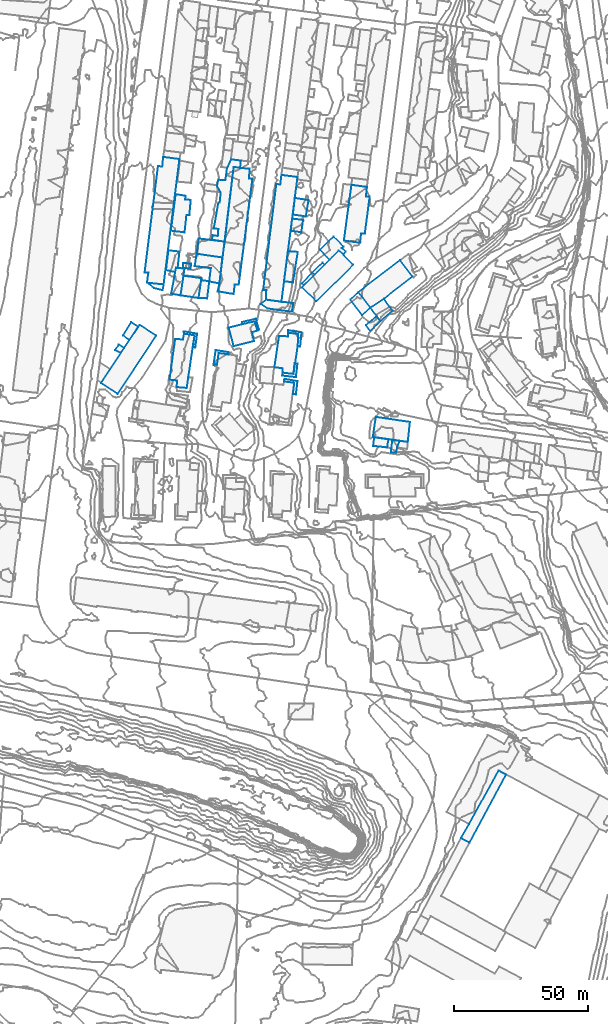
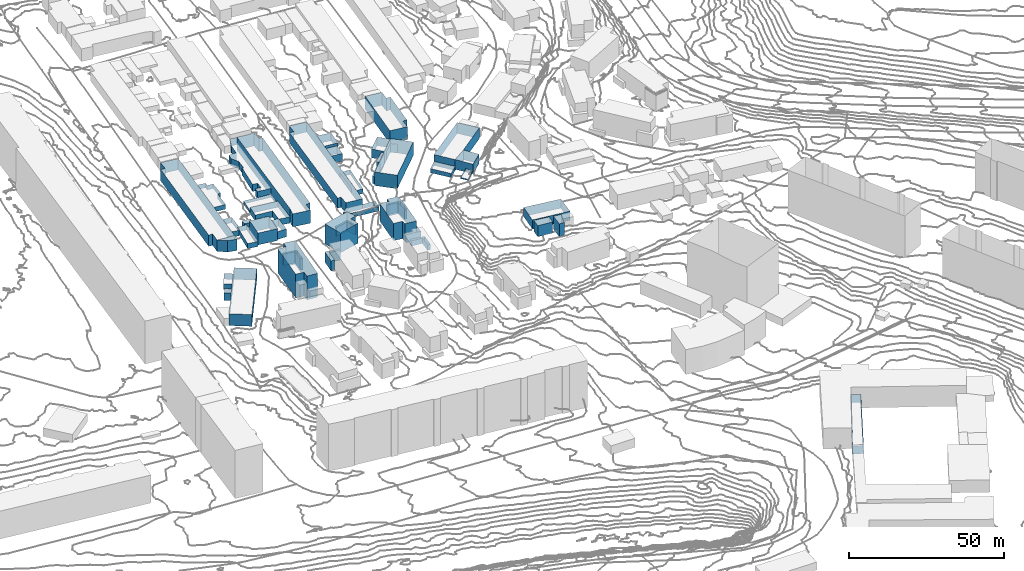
# Not in any storey, part 48 of 419: 42 walls.
"""IFC2X3 model written with IfcOpenShell, lengths in metres."""

from ifc_helpers import new_model, si_unit, frame, origin_with_axes, place, context, subcontext, project, faceted_brep, element, save


model = new_model("IFC2X3")

# Units and contexts
model_context = context("Model", 3, precision=1e-05, world=origin_with_axes())
body_context = subcontext(model_context, "Body", "Model", "MODEL_VIEW")
ifc_project = project(units=[si_unit("AREAUNIT", "SQUARE_METRE"), si_unit("LENGTHUNIT", "METRE")], contexts=[model_context])

# Walls
wall_1_placement = place(None, frame((532.2920204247, 723.0976909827, 38.54), z_axis=(0.0, 0.0, 1.0), x_axis=(1.0, 0.0, 0.0)))
element("IfcWall", 1, at=wall_1_placement, Name="Mur 0", context=body_context, shape_type="Brep", body=[
    faceted_brep([(0.0, 0.0, 3.06), (0.5, 4.5, 3.06), (0.0, 0.0, 0.0), (0.5, 4.5, 0.0), (3.9, -0.6000000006, 3.06), (3.9, -0.6000000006, 0.0), (4.6000000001, 4.0, 3.06), (4.6000000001, 4.0, 0.0)], [[[0, 1, 2]], [[2, 1, 3]], [[4, 0, 5]], [[5, 0, 2]], [[1, 6, 3]], [[3, 6, 7]], [[6, 4, 7]], [[7, 4, 5]]]),
])
wall_2_placement = place(None, frame((533.0920204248, 729.0976909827, 38.442999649), z_axis=(0.0, 0.0, 1.0), x_axis=(1.0, 0.0, 0.0)))
element("IfcWall", 2, at=wall_2_placement, Name="Mur 0", context=body_context, shape_type="Brep", body=[
    faceted_brep([(0.0, 0.0, 3.157000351), (0.7, 6.2000000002, 3.157000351), (0.0, 0.0, 0.0), (0.7, 6.2000000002, 0.0), (4.8, -0.7000000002, 3.157000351), (4.8, -0.7000000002, 0.0), (5.8, 5.3999999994, 3.157000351), (5.8, 5.3999999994, 0.0)], [[[0, 1, 2]], [[2, 1, 3]], [[4, 0, 5]], [[5, 0, 2]], [[1, 6, 3]], [[3, 6, 7]], [[6, 4, 7]], [[7, 4, 5]]]),
])
wall_3_placement = place(None, frame((491.1920204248, 698.9976909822, 35.623999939), z_axis=(0.0, 0.0, 1.0), x_axis=(1.0, 0.0, 0.0)))
element("IfcWall", 3, at=wall_3_placement, Name="Mur 0", context=body_context, shape_type="Brep", body=[
    faceted_brep([(7.8, 6.4000000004, 4.676000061), (6.7000000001, -1.0, 4.676000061), (7.8, 6.4000000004, 0.0), (6.7000000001, -1.0, 0.0), (1.1, 7.3000000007, 4.676000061), (1.1, 7.3000000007, 0.0), (0.0, 0.0, 4.676000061), (0.0, 0.0, 0.0)], [[[0, 1, 2]], [[2, 1, 3]], [[4, 0, 5]], [[5, 0, 2]], [[1, 6, 3]], [[3, 6, 7]], [[6, 4, 7]], [[7, 4, 5]]]),
])
wall_4_placement = place(None, frame((503.4920204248, 673.0976909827, 36.7057994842), z_axis=(0.0, 0.0, 1.0), x_axis=(1.0, 0.0, 0.0)))
element("IfcWall", 4, at=wall_4_placement, Name="Mur 0", context=body_context, shape_type="Brep", body=[
    faceted_brep([(5.7, 4.7000000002, 3.9942005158), (5.7, 3.8999999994, 3.9942005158), (5.7, 4.7000000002, 0.0), (5.7, 3.8999999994, 0.0), (0.7999999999, 5.5, 3.9942005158), (0.7999999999, 5.5, 0.0), (0.0, 0.0, 3.9942005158), (0.0, 0.0, 0.0), (1.2999999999, 0.0999999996, 3.9942005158), (1.2999999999, 0.0999999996, 0.0), (1.9, 4.3999999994, 3.9942005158), (1.9, 4.3999999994, 0.0)], [[[0, 1, 2]], [[2, 1, 3]], [[4, 0, 5]], [[5, 0, 2]], [[6, 4, 7]], [[7, 4, 5]], [[8, 6, 9]], [[9, 6, 7]], [[1, 10, 3]], [[3, 10, 11]], [[10, 8, 11]], [[11, 8, 9]]]),
])
wall_5_placement = place(None, frame((514.0920204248, 689.0976909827, 37.3319997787), z_axis=(0.0, 0.0, 1.0), x_axis=(1.0, 0.0, 0.0)))
element("IfcWall", 5, at=wall_5_placement, Name="Mur 0", context=body_context, shape_type="Brep", body=[
    faceted_brep([(4.7, 0.2000000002, 3.5680002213), (0.2, -0.7999999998, 3.5680002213), (4.7, 0.2000000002, 0.0), (0.2, -0.7999999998, 0.0), (5.8, -3.2000000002, 3.5680002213), (5.8, -3.2000000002, 0.0), (6.4, -2.9000000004, 3.5680002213), (6.4, -2.9000000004, 0.0), (5.2, 1.2000000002, 3.5680002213), (5.2, 1.2000000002, 0.0), (0.0, 0.0, 3.5680002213), (0.0, 0.0, 0.0)], [[[0, 1, 2]], [[2, 1, 3]], [[4, 0, 5]], [[5, 0, 2]], [[6, 4, 7]], [[7, 4, 5]], [[8, 6, 9]], [[9, 6, 7]], [[1, 10, 3]], [[3, 10, 11]], [[10, 8, 11]], [[11, 8, 9]]]),
])
wall_6_placement = place(None, frame((595.6920204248, 496.6976909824, 39.4398013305), z_axis=(0.0, 0.0, 1.0), x_axis=(1.0, 0.0, 0.0)))
element("IfcWall", 6, at=wall_6_placement, Name="Mur 0", context=body_context, shape_type="Brep", body=[
    faceted_brep([(0.0, 0.0, 3.1601986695), (3.0, 5.2000000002, 3.1601986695), (0.0, 0.0, 0.0), (3.0, 5.2000000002, 0.0), (3.2000000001, -1.7000000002, 3.1601986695), (3.2000000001, -1.7000000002, 0.0), (16.8, 23.6000000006, 3.1601986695), (16.8, 23.6000000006, 0.0), (14.0, 25.2000000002, 3.1601986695), (14.0, 25.2000000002, 0.0)], [[[0, 1, 2]], [[2, 1, 3]], [[4, 0, 5]], [[5, 0, 2]], [[6, 4, 7]], [[7, 4, 5]], [[1, 8, 3]], [[3, 8, 9]], [[8, 6, 9]], [[9, 6, 7]]]),
])
wall_7_placement = place(None, frame((536.3920204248, 703.4976909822, 41.2411993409), z_axis=(0.0, 0.0, 1.0), x_axis=(1.0, 0.0, 0.0)))
element("IfcWall", 7, at=wall_7_placement, Name="Mur 0", context=body_context, shape_type="Brep", body=[
    faceted_brep([(4.7, 3.2000000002, 2.9588006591), (0.7, -0.6999999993, 2.9588006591), (4.7, 3.2000000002, 0.0), (0.7, -0.6999999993, 0.0), (3.7999999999, 4.0, 2.9588006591), (3.7999999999, 4.0, 0.0), (0.0, 0.0, 2.9588006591), (0.0, 0.0, 0.0)], [[[0, 1, 2]], [[2, 1, 3]], [[4, 0, 5]], [[5, 0, 2]], [[1, 6, 3]], [[3, 6, 7]], [[6, 4, 7]], [[7, 4, 5]]]),
])
wall_8_placement = place(None, frame((496.4920204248, 709.8976909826, 36.4627999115), z_axis=(0.0, 0.0, 1.0), x_axis=(1.0, 0.0, 0.0)))
element("IfcWall", 8, at=wall_8_placement, Name="Mur 0", context=body_context, shape_type="Brep", body=[
    faceted_brep([(10.2999999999, 3.2000000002, 2.4372000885), (9.2, -6.5, 2.4372000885), (10.2999999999, 3.2000000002, 0.0), (9.2, -6.5, 0.0), (0.7, 4.5999999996, 2.4372000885), (0.7, 4.5999999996, 0.0), (0.0, 0.0, 2.4372000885), (0.0, 0.0, 0.0), (6.0, -0.7999999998, 2.4372000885), (6.0, -0.7999999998, 0.0), (5.4, -5.7000000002, 2.4372000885), (5.4, -5.7000000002, 0.0)], [[[0, 1, 2]], [[2, 1, 3]], [[4, 0, 5]], [[5, 0, 2]], [[6, 4, 7]], [[7, 4, 5]], [[8, 6, 9]], [[9, 6, 7]], [[1, 10, 3]], [[3, 10, 11]], [[10, 8, 11]], [[11, 8, 9]]]),
])
wall_9_placement = place(None, frame((502.8920204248, 719.6976909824, 37.1452000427), z_axis=(0.0, 0.0, 1.0), x_axis=(1.0, 0.0, 0.0)))
element("IfcWall", 9, at=wall_9_placement, Name="Mur 0", context=body_context, shape_type="Brep", body=[
    faceted_brep([(7.1, 30.0, 2.8547999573), (10.7999999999, 29.5, 2.8547999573), (7.1, 30.0, 0.0), (10.7999999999, 29.5, 0.0), (5.6, 26.5, 2.8547999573), (5.6, 26.5, 0.0), (5.0, 22.2000000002, 2.8547999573), (5.0, 22.2000000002, 0.0), (2.3999999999, 22.4000000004, 2.8547999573), (2.3999999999, 22.4000000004, 0.0), (1.8999999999, 20.2999999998, 2.8547999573), (1.8999999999, 20.2999999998, 0.0), (3.2999999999, 17.7000000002, 2.8547999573), (3.2999999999, 17.7000000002, 0.0), (2.8999999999, 13.9000000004, 2.8547999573), (2.8999999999, 13.9000000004, 0.0), (2.3999999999, 13.9000000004, 2.8547999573), (2.3999999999, 13.9000000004, 0.0), (0.7, 4.2999999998, 2.8547999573), (0.7, 4.2999999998, 0.0), (2.3999999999, 4.0, 2.8547999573), (2.3999999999, 4.0, 0.0), (2.2, 1.4000000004, 2.8547999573), (2.2, 1.4000000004, 0.0), (0.2999999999, 1.7000000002, 2.8547999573), (0.2999999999, 1.7000000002, 0.0), (0.0, 0.0, 2.8547999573), (0.0, 0.0, 0.0), (4.7999999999, -0.7000000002, 2.8547999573), (4.7999999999, -0.7000000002, 0.0), (8.1, 27.2000000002, 2.8547999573), (8.1, 27.2000000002, 0.0), (10.5, 26.7999999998, 2.8547999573), (10.5, 26.7999999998, 0.0)], [[[0, 1, 2]], [[2, 1, 3]], [[4, 0, 5]], [[5, 0, 2]], [[6, 4, 7]], [[7, 4, 5]], [[8, 6, 9]], [[9, 6, 7]], [[10, 8, 11]], [[11, 8, 9]], [[12, 10, 13]], [[13, 10, 11]], [[14, 12, 15]], [[15, 12, 13]], [[16, 14, 17]], [[17, 14, 15]], [[18, 16, 19]], [[19, 16, 17]], [[20, 18, 21]], [[21, 18, 19]], [[22, 20, 23]], [[23, 20, 21]], [[24, 22, 25]], [[25, 22, 23]], [[26, 24, 27]], [[27, 24, 25]], [[28, 26, 29]], [[29, 26, 27]], [[30, 28, 31]], [[31, 28, 29]], [[1, 32, 3]], [[3, 32, 33]], [[32, 30, 33]], [[33, 30, 31]]]),
])
wall_10_placement = place(None, frame((554.4920204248, 697.3976909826, 42.8836994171), z_axis=(0.0, 0.0, 1.0), x_axis=(1.0, 0.0, 0.0)))
element("IfcWall", 10, at=wall_10_placement, Name="Mur 0", context=body_context, shape_type="Brep", body=[
    faceted_brep([(3.0, 2.9000000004, 1.6163005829), (7.5, -2.9000000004, 1.6163005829), (3.0, 2.9000000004, 0.0), (7.5, -2.9000000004, 0.0), (0.0, 0.0, 1.6163005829), (0.0, 0.0, 0.0), (4.4, -5.7000000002, 1.6163005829), (4.4, -5.7000000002, 0.0)], [[[0, 1, 2]], [[2, 1, 3]], [[4, 0, 5]], [[5, 0, 2]], [[1, 6, 3]], [[3, 6, 7]], [[6, 4, 7]], [[7, 4, 5]]]),
])
wall_11_placement = place(None, frame((469.6920204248, 684.0976909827, 34.6607994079), z_axis=(0.0, 0.0, 1.0), x_axis=(1.0, 0.0, 0.0)))
element("IfcWall", 11, at=wall_11_placement, Name="Mur 0", context=body_context, shape_type="Brep", body=[
    faceted_brep([(3.1, 4.8999999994, 2.2392005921), (5.7000000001, 3.2000000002, 2.2392005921), (3.1, 4.8999999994, 0.0), (5.7000000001, 3.2000000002, 0.0), (0.0, 0.0, 2.2392005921), (0.0, 0.0, 0.0), (2.4, -1.7000000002, 2.2392005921), (2.4, -1.7000000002, 0.0)], [[[0, 1, 2]], [[2, 1, 3]], [[4, 0, 5]], [[5, 0, 2]], [[1, 6, 3]], [[3, 6, 7]], [[6, 4, 7]], [[7, 4, 5]]]),
])
wall_12_placement = place(None, frame((531.1920204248, 685.0976909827, 41.7803999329), z_axis=(0.0, 0.0, 1.0), x_axis=(1.0, 0.0, 0.0)))
element("IfcWall", 12, at=wall_12_placement, Name="Mur 0", context=body_context, shape_type="Brep", body=[
    faceted_brep([(3.8, -0.5, 3.9196000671), (0.0, 0.0, 3.9196000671), (3.8, -0.5, 0.0), (0.0, 0.0, 0.0), (3.7000000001, -4.9000000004, 3.9196000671), (3.7000000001, -4.9000000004, 0.0), (4.6, -5.1000000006, 3.9196000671), (4.6, -5.1000000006, 0.0), (5.1, 0.0999999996, 3.9196000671), (5.1, 0.0999999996, 0.0), (0.1, 0.8999999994, 3.9196000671), (0.1, 0.8999999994, 0.0)], [[[0, 1, 2]], [[2, 1, 3]], [[4, 0, 5]], [[5, 0, 2]], [[6, 4, 7]], [[7, 4, 5]], [[8, 6, 9]], [[9, 6, 7]], [[1, 10, 3]], [[3, 10, 11]], [[10, 8, 11]], [[11, 8, 9]]]),
])
wall_13_placement = place(None, frame((487.5920204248, 723.0976909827, 34.9640010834), z_axis=(0.0, 0.0, 1.0), x_axis=(1.0, 0.0, 0.0)))
element("IfcWall", 13, at=wall_13_placement, Name="Mur 0", context=body_context, shape_type="Brep", body=[
    faceted_brep([(0.0, 0.0, 1.8359989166), (1.8, 13.5999999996, 1.8359989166), (0.0, 0.0, 0.0), (1.8, 13.5999999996, 0.0), (5.1, -0.6000000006, 1.8359989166), (5.1, -0.6000000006, 0.0), (5.8, 5.7999999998, 1.8359989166), (5.8, 5.7999999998, 0.0), (6.9, 5.7999999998, 1.8359989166), (6.9, 5.7999999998, 0.0), (7.4, 11.5, 1.8359989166), (7.4, 11.5, 0.0), (5.3, 11.5999999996, 1.8359989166), (5.3, 11.5999999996, 0.0), (5.5, 13.0, 1.8359989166), (5.5, 13.0, 0.0)], [[[0, 1, 2]], [[2, 1, 3]], [[4, 0, 5]], [[5, 0, 2]], [[6, 4, 7]], [[7, 4, 5]], [[8, 6, 9]], [[9, 6, 7]], [[10, 8, 11]], [[11, 8, 9]], [[12, 10, 13]], [[13, 10, 11]], [[1, 14, 3]], [[3, 14, 15]], [[14, 12, 15]], [[15, 12, 13]]]),
])
wall_14_placement = place(None, frame((561.9920204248, 694.4976909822, 43.3685993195), z_axis=(0.0, 0.0, 1.0), x_axis=(1.0, 0.0, 0.0)))
element("IfcWall", 14, at=wall_14_placement, Name="Mur 0", context=body_context, shape_type="Brep", body=[
    faceted_brep([(3.7, -5.0999999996, 3.8314006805), (0.0, 0.0, 3.8314006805), (3.7, -5.0999999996, 0.0), (0.0, 0.0, 0.0), (8.2, -1.1999999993, 3.8314006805), (8.2, -1.1999999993, 0.0), (5.0, 3.3000000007, 3.8314006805), (5.0, 3.3000000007, 0.0)], [[[0, 1, 2]], [[2, 1, 3]], [[4, 0, 5]], [[5, 0, 2]], [[1, 6, 3]], [[3, 6, 7]], [[6, 4, 7]], [[7, 4, 5]]]),
])
wall_15_placement = place(None, frame((543.2920204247, 716.0976909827, 41.3683003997), z_axis=(0.0, 0.0, 1.0), x_axis=(1.0, 0.0, 0.0)))
element("IfcWall", 15, at=wall_15_placement, Name="Mur 0", context=body_context, shape_type="Brep", body=[
    faceted_brep([(9.4, -0.7999999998, 3.4316996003), (8.6000000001, -1.9000000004, 3.4316996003), (9.4, -0.7999999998, 0.0), (8.6000000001, -1.9000000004, 0.0), (8.0, 0.5999999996, 3.4316996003), (8.0, 0.5999999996, 0.0), (8.7000000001, 1.0999999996, 3.4316996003), (8.7000000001, 1.0999999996, 0.0), (5.0, 4.8999999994, 3.4316996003), (5.0, 4.8999999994, 0.0), (0.0, 0.0, 3.4316996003), (0.0, 0.0, 0.0), (3.4, -3.7999999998, 3.4316996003), (3.4, -3.7999999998, 0.0), (6.8, -0.4000000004, 3.4316996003), (6.8, -0.4000000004, 0.0)], [[[0, 1, 2]], [[2, 1, 3]], [[4, 0, 5]], [[5, 0, 2]], [[6, 4, 7]], [[7, 4, 5]], [[8, 6, 9]], [[9, 6, 7]], [[10, 8, 11]], [[11, 8, 9]], [[12, 10, 13]], [[13, 10, 11]], [[1, 14, 3]], [[3, 14, 15]], [[14, 12, 15]], [[15, 12, 13]]]),
])
wall_16_placement = place(None, frame((562.9920204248, 642.8976909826, 47.7364006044), z_axis=(0.0, 0.0, 1.0), x_axis=(1.0, 0.0, 0.0)))
element("IfcWall", 16, at=wall_16_placement, Name="Mur 0", context=body_context, shape_type="Brep", body=[
    faceted_brep([(0.0, 0.0, 4.3635993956), (0.4, 3.2000000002, 4.3635993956), (0.0, 0.0, 0.0), (0.4, 3.2000000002, 0.0), (5.2, -0.5999999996, 4.3635993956), (5.2, -0.5999999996, 0.0), (5.7, 2.4000000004, 4.3635993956), (5.7, 2.4000000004, 0.0)], [[[0, 1, 2]], [[2, 1, 3]], [[4, 0, 5]], [[5, 0, 2]], [[1, 6, 3]], [[3, 6, 7]], [[6, 4, 7]], [[7, 4, 5]]]),
])
wall_17_placement = place(None, frame((557.4920204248, 700.2976909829, 42.8836994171), z_axis=(0.0, 0.0, 1.0), x_axis=(1.0, 0.0, 0.0)))
element("IfcWall", 17, at=wall_17_placement, Name="Mur 0", context=body_context, shape_type="Brep", body=[
    faceted_brep([(15.5, 11.8999999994, 4.3163005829), (20.2, 5.7999999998, 4.3163005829), (15.5, 11.8999999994, 0.0), (20.2, 5.7999999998, 0.0), (0.0, 0.0, 4.3163005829), (0.0, 0.0, 0.0), (4.5, -5.8000000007, 4.3163005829), (4.5, -5.8000000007, 0.0), (9.5, -2.5, 4.3163005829), (9.5, -2.5, 0.0)], [[[0, 1, 2]], [[2, 1, 3]], [[4, 0, 5]], [[5, 0, 2]], [[6, 4, 7]], [[7, 4, 5]], [[1, 8, 3]], [[3, 8, 9]], [[8, 6, 9]], [[9, 6, 7]]]),
])
wall_18_placement = place(None, frame((540.1920204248, 707.4976909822, 42.1155997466), z_axis=(0.0, 0.0, 1.0), x_axis=(1.0, 0.0, 0.0)))
element("IfcWall", 18, at=wall_18_placement, Name="Mur 0", context=body_context, shape_type="Brep", body=[
    faceted_brep([(4.7000000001, 3.0, 3.9844002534), (0.9, -0.7999999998, 3.9844002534), (4.7000000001, 3.0, 0.0), (0.9, -0.7999999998, 0.0), (3.9, 3.8000000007, 3.9844002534), (3.9, 3.8000000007, 0.0), (0.0, 0.0, 3.9844002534), (0.0, 0.0, 0.0)], [[[0, 1, 2]], [[2, 1, 3]], [[4, 0, 5]], [[5, 0, 2]], [[1, 6, 3]], [[3, 6, 7]], [[6, 4, 7]], [[7, 4, 5]]]),
])
wall_19_placement = place(None, frame((529.7920204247, 704.2976909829, 38.294998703), z_axis=(0.0, 0.0, 1.0), x_axis=(1.0, 0.0, 0.0)))
element("IfcWall", 19, at=wall_19_placement, Name="Mur 0", context=body_context, shape_type="Brep", body=[
    faceted_brep([(3.3, -0.5, 1.805001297), (0.0, 0.0, 1.805001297), (3.3, -0.5, 0.0), (0.0, 0.0, 0.0), (5.1000000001, 10.8999999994, 1.805001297), (5.1000000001, 10.8999999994, 0.0), (1.4, 11.1999999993, 1.805001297), (1.4, 11.1999999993, 0.0)], [[[0, 1, 2]], [[2, 1, 3]], [[4, 0, 5]], [[5, 0, 2]], [[1, 6, 3]], [[3, 6, 7]], [[6, 4, 7]], [[7, 4, 5]]]),
])
wall_20_placement = place(None, frame((520.9920204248, 695.7976909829, 38.1628002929), z_axis=(0.0, 0.0, 1.0), x_axis=(1.0, 0.0, 0.0)))
element("IfcWall", 20, at=wall_20_placement, Name="Mur 0", context=body_context, shape_type="Brep", body=[
    faceted_brep([(0.0, 0.0, 1.7371997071), (2.0, 1.5999999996, 1.7371997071), (0.0, 0.0, 0.0), (2.0, 1.5999999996, 0.0), (2.6, -1.7000000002, 1.7371997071), (2.6, -1.7000000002, 0.0), (11.7, -2.9000000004, 1.7371997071), (11.7, -2.9000000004, 0.0), (12.2, 0.2999999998, 1.7371997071), (12.2, 0.2999999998, 0.0)], [[[0, 1, 2]], [[2, 1, 3]], [[4, 0, 5]], [[5, 0, 2]], [[6, 4, 7]], [[7, 4, 5]], [[1, 8, 3]], [[3, 8, 9]], [[8, 6, 9]], [[9, 6, 7]]]),
])
wall_21_placement = place(None, frame((492.0920204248, 709.2976909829, 35.5023989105), z_axis=(0.0, 0.0, 1.0), x_axis=(1.0, 0.0, 0.0)))
element("IfcWall", 21, at=wall_21_placement, Name="Mur 0", context=body_context, shape_type="Brep", body=[
    faceted_brep([(3.1, 1.5, 1.8976010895), (2.8, -0.4000000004, 1.8976010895), (3.1, 1.5, 0.0), (2.8, -0.4000000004, 0.0), (0.1, 1.7999999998, 1.8976010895), (0.1, 1.7999999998, 0.0), (0.0, 0.0, 1.8976010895), (0.0, 0.0, 0.0)], [[[0, 1, 2]], [[2, 1, 3]], [[4, 0, 5]], [[5, 0, 2]], [[1, 6, 3]], [[3, 6, 7]], [[6, 4, 7]], [[7, 4, 5]]]),
])
wall_22_placement = place(None, frame((487.6920204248, 699.5976909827, 35.014600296), z_axis=(0.0, 0.0, 1.0), x_axis=(1.0, 0.0, 0.0)))
element("IfcWall", 22, at=wall_22_placement, Name="Mur 0", context=body_context, shape_type="Brep", body=[
    faceted_brep([(0.0, 0.0, 1.985399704), (1.5, 8.0999999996, 1.985399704), (0.0, 0.0, 0.0), (1.5, 8.0999999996, 0.0), (3.5, -0.6000000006, 1.985399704), (3.5, -0.6000000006, 0.0), (5.0, 9.2999999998, 1.985399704), (5.0, 9.2999999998, 0.0), (1.8, 9.7999999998, 1.985399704), (1.8, 9.7999999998, 0.0)], [[[0, 1, 2]], [[2, 1, 3]], [[4, 0, 5]], [[5, 0, 2]], [[6, 4, 7]], [[7, 4, 5]], [[1, 8, 3]], [[3, 8, 9]], [[8, 6, 9]], [[9, 6, 7]]]),
])
wall_23_placement = place(None, frame((560.2920204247, 687.9976909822, 44.2156001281), z_axis=(0.0, 0.0, 1.0), x_axis=(1.0, 0.0, 0.0)))
element("IfcWall", 23, at=wall_23_placement, Name="Mur 0", context=body_context, shape_type="Brep", body=[
    faceted_brep([(0.0, 0.0, 0.4843998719), (3.9, 3.3000000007, 0.4843998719), (0.0, 0.0, 0.0), (3.9, 3.3000000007, 0.0), (1.6000000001, -2.1999999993, 0.4843998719), (1.6000000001, -2.1999999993, 0.0), (5.4, 1.4000000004, 0.4843998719), (5.4, 1.4000000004, 0.0)], [[[0, 1, 2]], [[2, 1, 3]], [[4, 0, 5]], [[5, 0, 2]], [[1, 6, 3]], [[3, 6, 7]], [[6, 4, 7]], [[7, 4, 5]]]),
])
wall_24_placement = place(None, frame((536.3920204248, 701.9976909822, 41.3607991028), z_axis=(0.0, 0.0, 1.0), x_axis=(1.0, 0.0, 0.0)))
element("IfcWall", 24, at=wall_24_placement, Name="Mur 0", context=body_context, shape_type="Brep", body=[
    faceted_brep([(13.7, 13.7000000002, 5.3392008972), (15.5, 12.2000000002, 5.3392008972), (13.7, 13.7000000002, 0.0), (15.5, 12.2000000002, 0.0), (0.0, 0.0, 5.3392008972), (0.0, 0.0, 0.0), (5.3999999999, -5.1999999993, 5.3392008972), (5.3999999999, -5.1999999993, 0.0), (19.2, 8.4000000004, 5.3392008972), (19.2, 8.4000000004, 0.0)], [[[0, 1, 2]], [[2, 1, 3]], [[4, 0, 5]], [[5, 0, 2]], [[6, 4, 7]], [[7, 4, 5]], [[1, 8, 3]], [[3, 8, 9]], [[8, 6, 9]], [[9, 6, 7]]]),
])
wall_25_placement = place(None, frame((497.1920204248, 714.4976909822, 36.4867996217), z_axis=(0.0, 0.0, 1.0), x_axis=(1.0, 0.0, 0.0)))
element("IfcWall", 25, at=wall_25_placement, Name="Mur 0", context=body_context, shape_type="Brep", body=[
    faceted_brep([(0.8, 5.7000000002, 1.2132003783), (10.5, 4.5, 1.2132003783), (0.8, 5.7000000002, 0.0), (10.5, 4.5, 0.0), (0.0, 0.0, 1.2132003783), (0.0, 0.0, 0.0), (9.6, -1.3999999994, 1.2132003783), (9.6, -1.3999999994, 0.0)], [[[0, 1, 2]], [[2, 1, 3]], [[4, 0, 5]], [[5, 0, 2]], [[1, 6, 3]], [[3, 6, 7]], [[6, 4, 7]], [[7, 4, 5]]]),
])
wall_26_placement = place(None, frame((529.0920204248, 669.0976909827, 41.3235997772), z_axis=(0.0, 0.0, 1.0), x_axis=(1.0, 0.0, 0.0)))
element("IfcWall", 26, at=wall_26_placement, Name="Mur 0", context=body_context, shape_type="Brep", body=[
    faceted_brep([(0.0, 0.0, 3.1764002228), (0.2, 1.0999999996, 3.1764002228), (0.0, 0.0, 0.0), (0.2, 1.0999999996, 0.0), (5.1, -0.6000000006, 3.1764002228), (5.1, -0.6000000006, 0.0), (5.7, 4.5, 3.1764002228), (5.7, 4.5, 0.0), (4.6, 4.5999999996, 3.1764002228), (4.6, 4.5999999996, 0.0), (4.2, 0.5999999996, 3.1764002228), (4.2, 0.5999999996, 0.0)], [[[0, 1, 2]], [[2, 1, 3]], [[4, 0, 5]], [[5, 0, 2]], [[6, 4, 7]], [[7, 4, 5]], [[8, 6, 9]], [[9, 6, 7]], [[1, 10, 3]], [[3, 10, 11]], [[10, 8, 11]], [[11, 8, 9]]]),
])
wall_27_placement = place(None, frame((529.7920204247, 666.8976909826, 41.1484007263), z_axis=(0.0, 0.0, 1.0), x_axis=(1.0, 0.0, 0.0)))
element("IfcWall", 27, at=wall_27_placement, Name="Mur 0", context=body_context, shape_type="Brep", body=[
    faceted_brep([(3.8, -0.5, 2.0515992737), (0.0, 0.0, 2.0515992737), (3.8, -0.5, 0.0), (0.0, 0.0, 0.0), (3.3, -4.7000000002, 2.0515992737), (3.3, -4.7000000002, 0.0), (4.4, -4.7999999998, 2.0515992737), (4.4, -4.7999999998, 0.0), (5.0, 0.0999999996, 2.0515992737), (5.0, 0.0999999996, 0.0), (0.1000000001, 1.0, 2.0515992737), (0.1000000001, 1.0, 0.0)], [[[0, 1, 2]], [[2, 1, 3]], [[4, 0, 5]], [[5, 0, 2]], [[6, 4, 7]], [[7, 4, 5]], [[8, 6, 9]], [[9, 6, 7]], [[1, 10, 3]], [[3, 10, 11]], [[10, 8, 11]], [[11, 8, 9]]]),
])
wall_28_placement = place(None, frame((492.3920204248, 685.5976909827, 35.6831993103), z_axis=(0.0, 0.0, 1.0), x_axis=(1.0, 0.0, 0.0)))
element("IfcWall", 28, at=wall_28_placement, Name="Mur 0", context=body_context, shape_type="Brep", body=[
    faceted_brep([(4.2999999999, -6.1000000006, 4.5168006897), (3.5, -5.7000000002, 4.5168006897), (4.2999999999, -6.1000000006, 0.0), (3.5, -5.7000000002, 0.0), (5.0, -0.9000000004, 4.5168006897), (5.0, -0.9000000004, 0.0), (0.0, 0.0, 4.5168006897), (0.0, 0.0, 0.0), (0.1, -0.9000000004, 4.5168006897), (0.1, -0.9000000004, 0.0), (4.0, -1.5, 4.5168006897), (4.0, -1.5, 0.0)], [[[0, 1, 2]], [[2, 1, 3]], [[4, 0, 5]], [[5, 0, 2]], [[6, 4, 7]], [[7, 4, 5]], [[8, 6, 9]], [[9, 6, 7]], [[1, 10, 3]], [[3, 10, 11]], [[10, 8, 11]], [[11, 8, 9]]]),
])
wall_29_placement = place(None, frame((485.7920204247, 708.3976909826, 34.6597991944), z_axis=(0.0, 0.0, 1.0), x_axis=(1.0, 0.0, 0.0)))
element("IfcWall", 29, at=wall_29_placement, Name="Mur 0", context=body_context, shape_type="Brep", body=[
    faceted_brep([(3.4, -0.7000000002, 2.1402008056), (0.0, 0.0, 2.1402008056), (3.4, -0.7000000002, 0.0), (0.0, 0.0, 0.0), (3.7000000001, 1.0, 2.1402008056), (3.7000000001, 1.0, 0.0), (4.3, 0.7000000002, 2.1402008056), (4.3, 0.7000000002, 0.0), (5.0, 6.9000000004, 2.1402008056), (5.0, 6.9000000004, 0.0), (0.9, 7.4000000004, 2.1402008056), (0.9, 7.4000000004, 0.0)], [[[0, 1, 2]], [[2, 1, 3]], [[4, 0, 5]], [[5, 0, 2]], [[6, 4, 7]], [[7, 4, 5]], [[8, 6, 9]], [[9, 6, 7]], [[1, 10, 3]], [[3, 10, 11]], [[10, 8, 11]], [[11, 8, 9]]]),
])
wall_30_placement = place(None, frame((466.7920204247, 678.5976909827, 34.5924002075), z_axis=(0.0, 0.0, 1.0), x_axis=(1.0, 0.0, 0.0)))
element("IfcWall", 30, at=wall_30_placement, Name="Mur 0", context=body_context, shape_type="Brep", body=[
    faceted_brep([(3.3, 0.7999999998, 3.0075997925), (2.0, -1.1000000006, 3.0075997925), (3.3, 0.7999999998, 0.0), (2.0, -1.1000000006, 0.0), (1.4, 2.0999999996, 3.0075997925), (1.4, 2.0999999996, 0.0), (0.0, 0.0, 3.0075997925), (0.0, 0.0, 0.0)], [[[0, 1, 2]], [[2, 1, 3]], [[4, 0, 5]], [[5, 0, 2]], [[1, 6, 3]], [[3, 6, 7]], [[6, 4, 7]], [[7, 4, 5]]]),
])
wall_31_placement = place(None, frame((569.5920204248, 640.3976909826, 46.9099998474), z_axis=(0.0, 0.0, 1.0), x_axis=(1.0, 0.0, 0.0)))
element("IfcWall", 31, at=wall_31_placement, Name="Mur 0", context=body_context, shape_type="Brep", body=[
    faceted_brep([(3.2, 4.2999999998, 5.0900001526), (2.3, 1.9000000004, 5.0900001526), (3.2, 4.2999999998, 0.0), (2.3, 1.9000000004, 0.0), (0.5, 4.7000000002, 5.0900001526), (0.5, 4.7000000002, 0.0), (0.0, 0.0, 5.0900001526), (0.0, 0.0, 0.0), (1.9, 0.0, 5.0900001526), (1.9, 0.0, 0.0)], [[[0, 1, 2]], [[2, 1, 3]], [[4, 0, 5]], [[5, 0, 2]], [[6, 4, 7]], [[7, 4, 5]], [[1, 8, 3]], [[3, 8, 9]], [[8, 6, 9]], [[9, 6, 7]]]),
])
wall_32_placement = place(None, frame((487.0920204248, 667.5976909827, 35.2327999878), z_axis=(0.0, 0.0, 1.0), x_axis=(1.0, 0.0, 0.0)))
element("IfcWall", 32, at=wall_32_placement, Name="Mur 0", context=body_context, shape_type="Brep", body=[
    faceted_brep([(6.4, -3.1000000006, 9.3672000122), (2.6, -2.7999999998, 9.3672000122), (6.4, -3.1000000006, 0.0), (2.6, -2.7999999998, 0.0), (9.3, 16.5, 9.3672000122), (9.3, 16.5, 0.0), (5.4, 17.0999999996, 9.3672000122), (5.4, 17.0999999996, 0.0), (5.0, 14.8999999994, 9.3672000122), (5.0, 14.8999999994, 0.0), (2.1, 15.2000000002, 9.3672000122), (2.1, 15.2000000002, 0.0), (0.0, 0.0, 9.3672000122), (0.0, 0.0, 0.0), (2.9, -0.4000000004, 9.3672000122), (2.9, -0.4000000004, 0.0)], [[[0, 1, 2]], [[2, 1, 3]], [[4, 0, 5]], [[5, 0, 2]], [[6, 4, 7]], [[7, 4, 5]], [[8, 6, 9]], [[9, 6, 7]], [[10, 8, 11]], [[11, 8, 9]], [[12, 10, 13]], [[13, 10, 11]], [[1, 14, 3]], [[3, 14, 15]], [[14, 12, 15]], [[15, 12, 13]]]),
])
wall_33_placement = place(None, frame((504.9920204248, 700.4976909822, 36.9749997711), z_axis=(0.0, 0.0, 1.0), x_axis=(1.0, 0.0, 0.0)))
element("IfcWall", 33, at=wall_33_placement, Name="Mur 0", context=body_context, shape_type="Brep", body=[
    faceted_brep([(6.0, 46.4000000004, 5.1250002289), (8.4, 46.0, 5.1250002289), (6.0, 46.4000000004, 0.0), (8.4, 46.0, 0.0), (0.7, 2.9000000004, 5.1250002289), (0.7, 2.9000000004, 0.0), (0.0, 0.0, 5.1250002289), (0.0, 0.0, 0.0), (6.0, -1.0, 5.1250002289), (6.0, -1.0, 0.0), (6.4, 2.5, 5.1250002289), (6.4, 2.5, 0.0), (7.9, 2.5, 5.1250002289), (7.9, 2.5, 0.0), (13.0, 42.0, 5.1250002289), (13.0, 42.0, 0.0), (11.7, 42.1000000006, 5.1250002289), (11.7, 42.1000000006, 0.0), (12.0, 45.7000000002, 5.1250002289), (12.0, 45.7000000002, 0.0)], [[[0, 1, 2]], [[2, 1, 3]], [[4, 0, 5]], [[5, 0, 2]], [[6, 4, 7]], [[7, 4, 5]], [[8, 6, 9]], [[9, 6, 7]], [[10, 8, 11]], [[11, 8, 9]], [[12, 10, 13]], [[13, 10, 11]], [[14, 12, 15]], [[15, 12, 13]], [[16, 14, 17]], [[17, 14, 15]], [[1, 18, 3]], [[3, 18, 19]], [[18, 16, 19]], [[19, 16, 17]]]),
])
wall_34_placement = place(None, frame((478.6920204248, 703.6976909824, 34.6267008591), z_axis=(0.0, 0.0, 1.0), x_axis=(1.0, 0.0, 0.0)))
element("IfcWall", 34, at=wall_34_placement, Name="Mur 0", context=body_context, shape_type="Brep", body=[
    faceted_brep([(2.7000000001, -2.0, 4.4732991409), (0.0, 0.0, 4.4732991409), (2.7000000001, -2.0, 0.0), (0.0, 0.0, 0.0), (5.8, -2.7999999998, 4.4732991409), (5.8, -2.7999999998, 0.0), (6.2000000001, -0.5999999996, 4.4732991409), (6.2000000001, -0.5999999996, 0.0)], [[[0, 1, 2]], [[2, 1, 3]], [[4, 0, 5]], [[5, 0, 2]], [[1, 6, 3]], [[3, 6, 7]], [[6, 4, 7]], [[7, 4, 5]]]),
])
wall_35_placement = place(None, frame((521.9920204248, 700.9976909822, 38.0867002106), z_axis=(0.0, 0.0, 1.0), x_axis=(1.0, 0.0, 0.0)))
element("IfcWall", 35, at=wall_35_placement, Name="Mur 0", context=body_context, shape_type="Brep", body=[
    faceted_brep([(6.7999999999, -4.3999999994, 4.0132997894), (1.0, -3.5999999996, 4.0132997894), (6.7999999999, -4.3999999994, 0.0), (1.0, -3.5999999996, 0.0), (12.7999999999, 42.1000000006, 4.0132997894), (12.7999999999, 42.1000000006, 0.0), (6.7999999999, 42.9000000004, 4.0132997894), (6.7999999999, 42.9000000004, 0.0), (6.4, 39.3000000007, 4.0132997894), (6.4, 39.3000000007, 0.0), (4.9, 39.5, 4.0132997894), (4.9, 39.5, 0.0), (0.0, 0.0, 4.0132997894), (0.0, 0.0, 0.0), (1.2, -0.0999999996, 4.0132997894), (1.2, -0.0999999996, 0.0)], [[[0, 1, 2]], [[2, 1, 3]], [[4, 0, 5]], [[5, 0, 2]], [[6, 4, 7]], [[7, 4, 5]], [[8, 6, 9]], [[9, 6, 7]], [[10, 8, 11]], [[11, 8, 9]], [[12, 10, 13]], [[13, 10, 11]], [[1, 14, 3]], [[3, 14, 15]], [[14, 12, 15]], [[15, 12, 13]]]),
])
wall_36_placement = place(None, frame((477.7920204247, 707.5976909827, 34.5523995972), z_axis=(0.0, 0.0, 1.0), x_axis=(1.0, 0.0, 0.0)))
element("IfcWall", 36, at=wall_36_placement, Name="Mur 0", context=body_context, shape_type="Brep", body=[
    faceted_brep([(7.1000000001, -4.5, 4.4476004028), (0.9, -3.9000000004, 4.4476004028), (7.1000000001, -4.5, 0.0), (0.9, -3.9000000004, 0.0), (13.0, 42.2000000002, 4.4476004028), (13.0, 42.2000000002, 0.0), (6.9, 43.0, 4.4476004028), (6.9, 43.0, 0.0), (6.6000000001, 39.3999999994, 4.4476004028), (6.6000000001, 39.3999999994, 0.0), (5.0, 39.5999999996, 4.4476004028), (5.0, 39.5999999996, 0.0), (0.0, 0.0, 4.4476004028), (0.0, 0.0, 0.0), (1.4, -0.1000000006, 4.4476004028), (1.4, -0.1000000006, 0.0)], [[[0, 1, 2]], [[2, 1, 3]], [[4, 0, 5]], [[5, 0, 2]], [[6, 4, 7]], [[7, 4, 5]], [[8, 6, 9]], [[9, 6, 7]], [[10, 8, 11]], [[11, 8, 9]], [[12, 10, 13]], [[13, 10, 11]], [[1, 14, 3]], [[3, 14, 15]], [[14, 12, 15]], [[15, 12, 13]]]),
])
wall_37_placement = place(None, frame((497.8920204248, 697.9976909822, 36.0491007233), z_axis=(0.0, 0.0, 1.0), x_axis=(1.0, 0.0, 0.0)))
element("IfcWall", 37, at=wall_37_placement, Name="Mur 0", context=body_context, shape_type="Brep", body=[
    faceted_brep([(1.0, 6.7000000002, 3.0508992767), (4.0, 6.2000000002, 3.0508992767), (1.0, 6.7000000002, 0.0), (4.0, 6.2000000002, 0.0), (0.0, 0.0, 3.0508992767), (0.0, 0.0, 0.0), (3.2, -0.0999999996, 3.0508992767), (3.2, -0.0999999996, 0.0)], [[[0, 1, 2]], [[2, 1, 3]], [[4, 0, 5]], [[5, 0, 2]], [[1, 6, 3]], [[3, 6, 7]], [[6, 4, 7]], [[7, 4, 5]]]),
])
wall_38_placement = place(None, frame((562.8920204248, 646.1976909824, 48.7956011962), z_axis=(0.0, 0.0, 1.0), x_axis=(1.0, 0.0, 0.0)))
element("IfcWall", 38, at=wall_38_placement, Name="Mur 0", context=body_context, shape_type="Brep", body=[
    faceted_brep([(13.7999999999, 5.6000000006, 3.6043988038), (13.0, -1.7999999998, 3.6043988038), (13.7999999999, 5.6000000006, 0.0), (13.0, -1.7999999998, 0.0), (1.1, 7.5, 3.6043988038), (1.1, 7.5, 0.0), (0.0, 0.0, 3.6043988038), (0.0, 0.0, 0.0)], [[[0, 1, 2]], [[2, 1, 3]], [[4, 0, 5]], [[5, 0, 2]], [[1, 6, 3]], [[3, 6, 7]], [[6, 4, 7]], [[7, 4, 5]]]),
])
wall_39_placement = place(None, frame((509.1920204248, 686.9976909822, 37.0455993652), z_axis=(0.0, 0.0, 1.0), x_axis=(1.0, 0.0, 0.0)))
element("IfcWall", 39, at=wall_39_placement, Name="Mur 0", context=body_context, shape_type="Brep", body=[
    faceted_brep([(0.0, 0.0, 7.8544006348), (5.1, 1.3000000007, 7.8544006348), (0.0, 0.0, 0.0), (5.1, 1.3000000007, 0.0), (1.8, -6.8999999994, 7.8544006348), (1.8, -6.8999999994, 0.0), (9.4, -5.0, 7.8544006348), (9.4, -5.0, 0.0), (8.7000000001, -1.6999999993, 7.8544006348), (8.7000000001, -1.6999999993, 0.0), (10.7000000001, -1.0999999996, 7.8544006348), (10.7000000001, -1.0999999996, 0.0), (9.6, 2.3000000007, 7.8544006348), (9.6, 2.3000000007, 0.0)], [[[0, 1, 2]], [[2, 1, 3]], [[4, 0, 5]], [[5, 0, 2]], [[6, 4, 7]], [[7, 4, 5]], [[8, 6, 9]], [[9, 6, 7]], [[10, 8, 11]], [[11, 8, 9]], [[1, 12, 3]], [[3, 12, 13]], [[12, 10, 13]], [[13, 10, 11]]]),
])
wall_40_placement = place(None, frame((461.4920204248, 666.3976909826, 34.0620014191), z_axis=(0.0, 0.0, 1.0), x_axis=(1.0, 0.0, 0.0)))
element("IfcWall", 40, at=wall_40_placement, Name="Mur 0", context=body_context, shape_type="Brep", body=[
    faceted_brep([(6.2, -4.0999999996, 4.6379985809), (0.0, 0.0, 4.6379985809), (6.2, -4.0999999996, 0.0), (0.0, 0.0, 0.0), (20.6, 17.5999999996, 4.6379985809), (20.6, 17.5999999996, 0.0), (14.4, 21.5999999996, 4.6379985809), (14.4, 21.5999999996, 0.0)], [[[0, 1, 2]], [[2, 1, 3]], [[4, 0, 5]], [[5, 0, 2]], [[1, 6, 3]], [[3, 6, 7]], [[6, 4, 7]], [[7, 4, 5]]]),
])
wall_41_placement = place(None, frame((526.1920204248, 672.1976909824, 41.2869987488), z_axis=(0.0, 0.0, 1.0), x_axis=(1.0, 0.0, 0.0)))
element("IfcWall", 41, at=wall_41_placement, Name="Mur 0", context=body_context, shape_type="Brep", body=[
    faceted_brep([(0.0, 0.0, 6.8130012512), (1.7000000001, 11.7000000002, 6.8130012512), (0.0, 0.0, 0.0), (1.7000000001, 11.7000000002, 0.0), (3.1, -0.3999999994, 6.8130012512), (3.1, -0.3999999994, 0.0), (3.1, -2.0, 6.8130012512), (3.1, -2.0, 0.0), (7.1, -2.5, 6.8130012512), (7.1, -2.5, 0.0), (8.7000000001, 8.0, 6.8130012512), (8.7000000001, 8.0, 0.0), (8.8, 12.4000000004, 6.8130012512), (8.8, 12.4000000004, 0.0), (5.0, 12.9000000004, 6.8130012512), (5.0, 12.9000000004, 0.0), (5.0, 11.5, 6.8130012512), (5.0, 11.5, 0.0)], [[[0, 1, 2]], [[2, 1, 3]], [[4, 0, 5]], [[5, 0, 2]], [[6, 4, 7]], [[7, 4, 5]], [[8, 6, 9]], [[9, 6, 7]], [[10, 8, 11]], [[11, 8, 9]], [[12, 10, 13]], [[13, 10, 11]], [[14, 12, 15]], [[15, 12, 13]], [[1, 16, 3]], [[3, 16, 17]], [[16, 14, 17]], [[17, 14, 15]]]),
])
wall_42_placement = place(None, frame((552.0920204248, 719.3976909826, 41.7934008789), z_axis=(0.0, 0.0, 1.0), x_axis=(1.0, 0.0, 0.0)))
element("IfcWall", 42, at=wall_42_placement, Name="Mur 0", context=body_context, shape_type="Brep", body=[
    faceted_brep([(0.0, 0.0, 5.1065991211), (2.8, 20.7999999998, 5.1065991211), (0.0, 0.0, 0.0), (2.8, 20.7999999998, 0.0), (6.0, -0.7999999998, 5.1065991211), (6.0, -0.7999999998, 0.0), (6.4, 2.5999999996, 5.1065991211), (6.4, 2.5999999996, 0.0), (7.8, 2.5999999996, 5.1065991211), (7.8, 2.5999999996, 0.0), (9.6, 16.4000000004, 5.1065991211), (9.6, 16.4000000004, 0.0), (8.2, 16.5, 5.1065991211), (8.2, 16.5, 0.0), (8.6, 20.0, 5.1065991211), (8.6, 20.0, 0.0)], [[[0, 1, 2]], [[2, 1, 3]], [[4, 0, 5]], [[5, 0, 2]], [[6, 4, 7]], [[7, 4, 5]], [[8, 6, 9]], [[9, 6, 7]], [[10, 8, 11]], [[11, 8, 9]], [[12, 10, 13]], [[13, 10, 11]], [[1, 14, 3]], [[3, 14, 15]], [[14, 12, 15]], [[15, 12, 13]]]),
])

save(model, "model.ifc")
